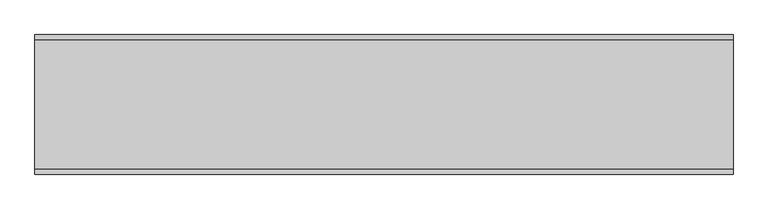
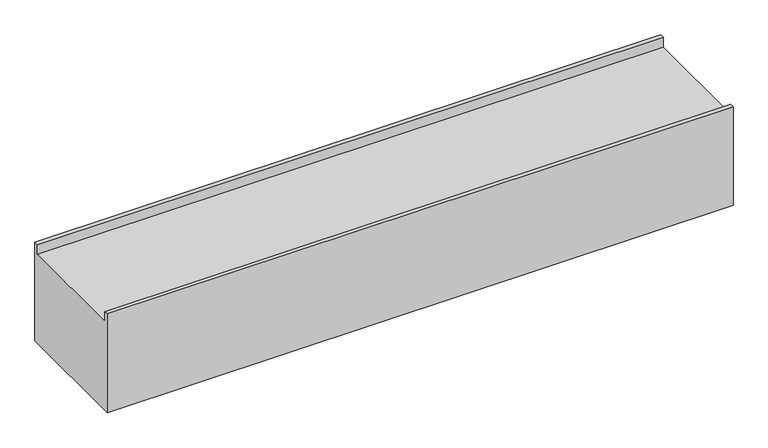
"""IFC4 building model written with IfcOpenShell, lengths in millimetres: furniture geometry, Transportanlage für Umgebung : Transportanlage für Umgebung."""

from ifc_helpers import new_model, si_unit, frame, origin, place, context, project, spatial, polyline, outline, extrude, source, transform, mapped, element, save


def furniture_42533b2d(model_context):
    return source(origin(), model_context, "Body", "SweptSolid", [
        extrude(outline(polyline([(300.0, 0.0), (-300.0, 0.0), (-300.0, 500.0), (-280.0, 500.0), (-280.0, 450.0), (280.0, 450.0), (280.0, 500.0), (300.0, 500.0), (300.0, 0.0)])), frame((-1500.0, 0.0, 0.0), z_axis=(1.0, 0.0, 0.0), x_axis=(0.0, 1.0, 0.0)), (0.0, 0.0, 1.0), 3000.0),
    ])


if __name__ == "__main__":
    model = new_model("IFC4")
    model_context = context("Model", 3, world=origin())
    ifc_project = project(units=[si_unit("LENGTHUNIT", "METRE", prefix="MILLI")], contexts=[model_context])
    site = spatial("IfcSite", under=ifc_project)
    building = spatial("IfcBuilding", under=site)
    placement = place(None, origin())
    furniture_shape = furniture_42533b2d(model_context)
    element("IfcFurniture", 1, ObjectType="Transportanlage für Umgebung : Transportanlage für Umgebung", at=placement, inside=building, context=model_context, shape_type="MappedRepresentation", body=[
        mapped(furniture_shape, transform((0.0, 0.0, 0.0), x_axis=(1.0, 0.0, 0.0), y_axis=(0.0, 1.0, 0.0), z_axis=(0.0, 0.0, 1.0))),
    ])
    save(model, "model.ifc")
